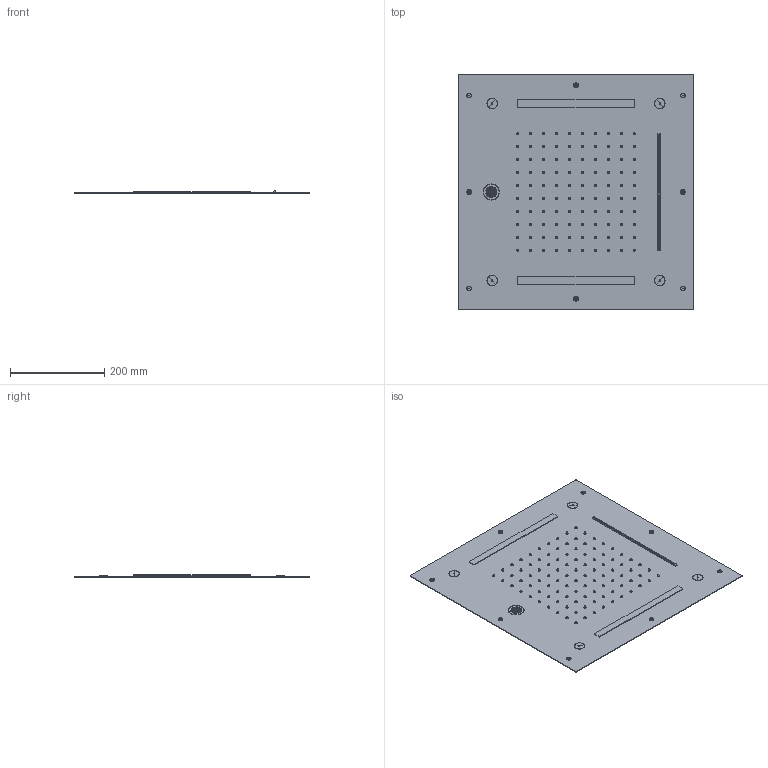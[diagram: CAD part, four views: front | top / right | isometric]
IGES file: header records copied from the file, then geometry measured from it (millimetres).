
Start section:  PTC IGES file: 90938.igs
Global section: file name: 90938.igs; native system: Creo Parametric by PTC Inc.; preprocessor: 2018100; author: carloff; organization: Unknown; date: 20210413.152320; units: millimetre
Bounding box: 500 x 500 x 5.96 mm (x, y, z)
Surface area: 521744.4 mm2 (no closed solid volume)
Topology: 0 solids, 0 shells, 2376 faces, 10964 edges, 10952 vertices
Faces by surface type: revolution 2026, bspline 350
